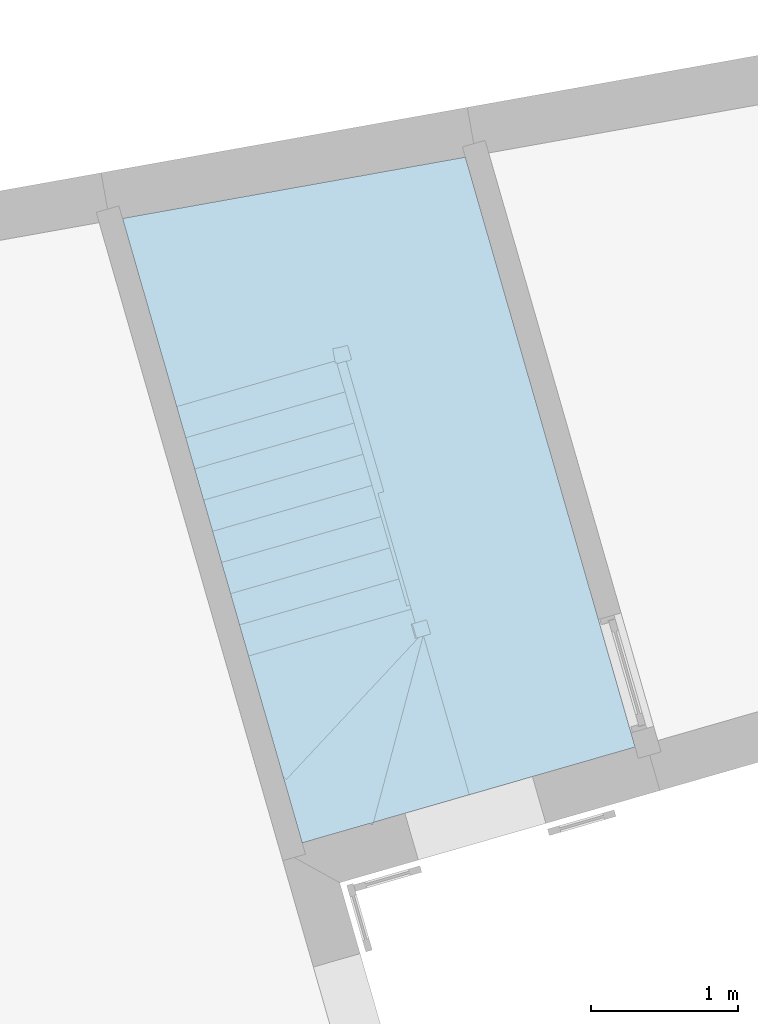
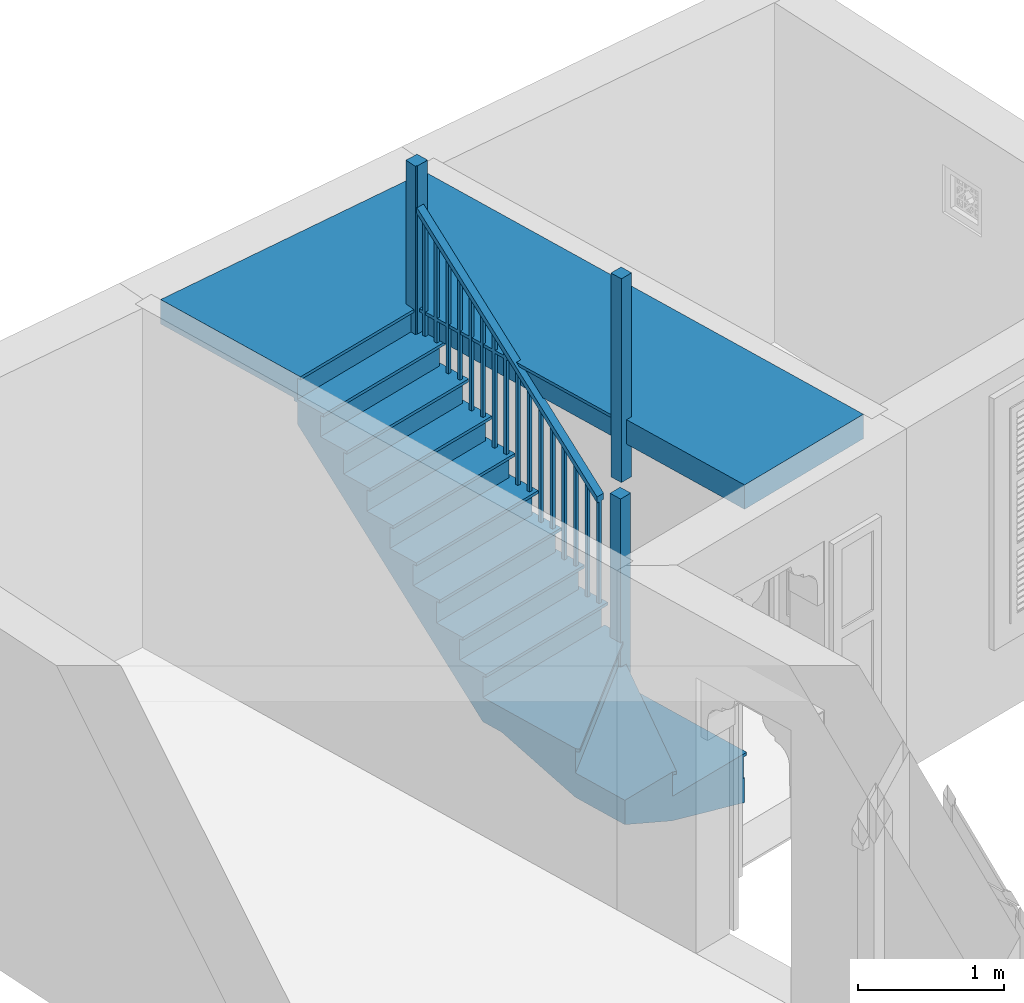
# One storey, part 16 of 16: 1 stair.
"""IFC4 building model written with IfcOpenShell, lengths in metres."""

from ifc_helpers import new_model, si_unit, origin, origin_with_axes, place, context, subcontext, project, spatial, faceted_brep, element, save


model = new_model("IFC4")

# Units and contexts
model_context = context("Model", 3, world=origin_with_axes())
body_context = subcontext(model_context, "Body", "Model", "MODEL_VIEW")
ifc_project = project(units=[si_unit("PLANEANGLEUNIT", "RADIAN"), si_unit("MASSUNIT", "GRAM", prefix="KILO"), si_unit("FORCEUNIT", "NEWTON", prefix="KILO"), si_unit("LENGTHUNIT", "METRE"), si_unit("AREAUNIT", "SQUARE_METRE"), si_unit("VOLUMEUNIT", "CUBIC_METRE")], contexts=[model_context, model_context])

# Site, building, storey
site_placement = place(None, origin_with_axes())
site = spatial("IfcSite", under=ifc_project, at=site_placement, Name="Site plot-9", CompositionType="ELEMENT")
building_placement = place(None, origin_with_axes())
building = spatial("IfcBuilding", under=site, at=building_placement, Name="Building plot-9", CompositionType="ELEMENT")
storey_placement = place(None, origin_with_axes())
storey = spatial("IfcBuildingStorey", under=building, at=storey_placement, Name="plot-9 0", CompositionType="ELEMENT", Elevation=0.0)

# Stair
stair_placement = place(None, origin())
element("IfcStair", 1, at=stair_placement, inside=storey, Name="Stair", PredefinedType="NOTDEFINED", context=body_context, shape_type="Brep", body=[
    faceted_brep([(-17.901008, 5.232909, 2.85), (-16.776629, 5.556441, 2.85), (-17.312239, 7.417856, 2.85), (-18.436617, 7.094324, 2.85), (-18.436617, 7.094324, 2.646429), (-17.312239, 7.417856, 2.646429), (-16.776629, 5.556441, 2.646429), (-17.901008, 5.232909, 2.646429)], [[[0, 1, 2, 3]], [[4, 5, 6, 7]], [[7, 6, 1, 0]], [[6, 5, 2, 1]], [[5, 4, 3, 2]], [[4, 7, 0, 3]]]),
    faceted_brep([(-18.436617, 7.094324, 2.825), (-18.465447, 7.086029, 2.825), (-18.436617, 7.094324, 2.85), (-17.929838, 5.224613, 2.825), (-17.901008, 5.232909, 2.825), (-17.901008, 5.232909, 2.85), (-18.465447, 7.086029, 2.85), (-17.929838, 5.224613, 2.85)], [[[0, 1, 2]], [[3, 4, 5]], [[1, 6, 2]], [[7, 3, 5]], [[2, 6, 7, 5]], [[0, 2, 5, 4]], [[1, 0, 4, 3]], [[6, 1, 3, 7]]]),
    faceted_brep([(-18.498494, 7.128549, 4.05), (-18.470841, 7.032448, 4.05), (-18.374741, 7.0601, 4.05), (-18.402393, 7.156201, 4.05), (-18.402393, 7.156201, 2.85), (-18.374741, 7.0601, 2.85), (-18.470841, 7.032448, 2.85), (-18.498494, 7.128549, 2.85)], [[[0, 1, 2, 3]], [[4, 5, 6, 7]], [[7, 6, 1, 0]], [[6, 5, 2, 1]], [[5, 4, 3, 2]], [[4, 7, 0, 3]]]),
    faceted_brep([(-18.436617, 7.094324, 2.85), (-17.312239, 7.417856, 2.85), (-17.603972, 8.431725, 2.85), (-18.642514, 8.246065, 2.85), (-18.642514, 8.246065, 2.646429), (-17.603972, 8.431725, 2.646429), (-17.312239, 7.417856, 2.646429), (-18.436617, 7.094324, 2.646429)], [[[0, 1, 2, 3]], [[4, 5, 6, 7]], [[7, 6, 1, 0]], [[6, 5, 2, 1]], [[5, 4, 3, 2]], [[4, 7, 0, 3]]]),
    faceted_brep([(-18.672046, 8.240786, 2.825), (-18.672046, 8.240786, 2.85), (-18.642514, 8.246065, 2.825), (-18.466149, 7.089045, 2.85), (-18.466149, 7.089045, 2.825), (-18.436617, 7.094324, 2.825), (-18.642514, 8.246065, 2.85), (-18.436617, 7.094324, 2.85)], [[[0, 1, 2]], [[3, 4, 5]], [[2, 1, 6]], [[3, 5, 7]], [[6, 1, 3, 7]], [[2, 6, 7, 5]], [[0, 2, 5, 4]], [[1, 0, 4, 3]]]),
    faceted_brep([(-18.498494, 7.128549, 2.85), (-18.470841, 7.032448, 2.85), (-18.374741, 7.0601, 2.85), (-18.402393, 7.156201, 2.85), (-18.402393, 7.156201, 2.35), (-18.374741, 7.0601, 2.35), (-18.470841, 7.032448, 2.35), (-18.498494, 7.128549, 2.35)], [[[0, 1, 2, 3]], [[4, 5, 6, 7]], [[7, 6, 1, 0]], [[6, 5, 2, 1]], [[5, 4, 3, 2]], [[4, 7, 0, 3]]]),
    faceted_brep([(-18.436617, 7.094324, 2.85), (-18.642514, 8.246065, 2.85), (-18.651067, 8.244536, 2.85), (-18.44517, 7.092796, 2.85), (-18.44517, 7.092796, 2.646429), (-18.651067, 8.244536, 2.646429), (-18.642514, 8.246065, 2.646429), (-18.436617, 7.094324, 2.646429)], [[[0, 1, 2, 3]], [[4, 5, 6, 7]], [[7, 6, 1, 0]], [[6, 5, 2, 1]], [[5, 4, 3, 2]], [[4, 7, 0, 3]]]),
    faceted_brep([(-18.44517, 7.092796, 2.825), (-18.43989, 7.063264, 2.825), (-18.44517, 7.092796, 2.85), (-18.431338, 7.064793, 2.825), (-18.436617, 7.094324, 2.825), (-18.436617, 7.094324, 2.85), (-18.43989, 7.063264, 2.85), (-18.431338, 7.064793, 2.85)], [[[0, 1, 2]], [[3, 4, 5]], [[1, 6, 2]], [[7, 3, 5]], [[2, 6, 7, 5]], [[0, 2, 5, 4]], [[1, 0, 4, 3]], [[6, 1, 3, 7]]]),
    faceted_brep([(-18.48559, 7.034777, 4.05), (-18.387151, 7.052375, 4.05), (-18.404749, 7.150814, 4.05), (-18.503188, 7.133216, 4.05), (-18.503188, 7.133216, 2.85), (-18.404749, 7.150814, 2.85), (-18.387151, 7.052375, 2.85), (-18.48559, 7.034777, 2.85)], [[[0, 1, 2, 3]], [[4, 5, 6, 7]], [[7, 6, 1, 0]], [[6, 5, 2, 1]], [[5, 4, 3, 2]], [[4, 7, 0, 3]]]),
    faceted_brep([(-18.44517, 7.092796, 2.85), (-18.651067, 8.244536, 2.85), (-19.928344, 8.016197, 2.85), (-19.569548, 6.769264, 2.85), (-19.569548, 6.769264, 2.646429), (-19.928344, 8.016197, 2.646429), (-18.651067, 8.244536, 2.646429), (-18.44517, 7.092796, 2.646429)], [[[0, 1, 2, 3]], [[4, 5, 6, 7]], [[7, 6, 1, 0]], [[6, 5, 2, 1]], [[5, 4, 3, 2]], [[4, 7, 0, 3]]]),
    faceted_brep([(-19.569548, 6.769264, 2.825), (-19.561253, 6.740433, 2.825), (-19.569548, 6.769264, 2.85), (-18.436874, 7.063965, 2.825), (-18.44517, 7.092796, 2.825), (-18.44517, 7.092796, 2.85), (-19.561253, 6.740433, 2.85), (-18.436874, 7.063965, 2.85)], [[[0, 1, 2]], [[3, 4, 5]], [[1, 6, 2]], [[7, 3, 5]], [[2, 6, 7, 5]], [[0, 2, 5, 4]], [[1, 0, 4, 3]], [[6, 1, 3, 7]]]),
    faceted_brep([(-18.48559, 7.034777, 2.85), (-18.387151, 7.052375, 2.85), (-18.404749, 7.150814, 2.85), (-18.503188, 7.133216, 2.85), (-18.503188, 7.133216, 2.35), (-18.404749, 7.150814, 2.35), (-18.387151, 7.052375, 2.35), (-18.48559, 7.034777, 2.35)], [[[0, 1, 2, 3]], [[4, 5, 6, 7]], [[7, 6, 1, 0]], [[6, 5, 2, 1]], [[5, 4, 3, 2]], [[4, 7, 0, 3]]]),
    faceted_brep([(-18.44517, 7.092796, 2.646429), (-19.569548, 6.769264, 2.646429), (-19.508713, 6.557842, 2.646429), (-18.384335, 6.881374, 2.646429), (-18.384335, 6.881374, 2.239286), (-19.508713, 6.557842, 2.239286), (-19.569548, 6.769264, 2.442857), (-18.44517, 7.092796, 2.442857)], [[[0, 1, 2, 3]], [[4, 5, 6, 7]], [[7, 6, 1, 0]], [[1, 6, 5, 2]], [[5, 4, 3, 2]], [[3, 4, 7, 0]]]),
    faceted_brep([(-19.508713, 6.557842, 2.621429), (-19.500417, 6.529012, 2.621429), (-19.508713, 6.557842, 2.646429), (-19.577844, 6.798094, 2.621429), (-19.569548, 6.769264, 2.621429), (-19.569548, 6.769264, 2.646429), (-19.500417, 6.529012, 2.646429), (-19.577844, 6.798094, 2.646429), (-18.347209, 6.860839, 2.646429), (-18.384335, 6.881374, 2.646429), (-18.384335, 6.881374, 2.621429), (-18.347209, 6.860839, 2.621429), (-18.424635, 7.129921, 2.646429), (-18.44517, 7.092796, 2.646429), (-18.44517, 7.092796, 2.621429), (-18.424635, 7.129921, 2.621429)], [[[0, 1, 2]], [[3, 4, 5]], [[1, 6, 2]], [[7, 3, 5]], [[2, 6, 8, 9]], [[0, 2, 9, 10]], [[1, 0, 10, 11]], [[6, 1, 11, 8]], [[9, 8, 12, 13]], [[10, 9, 13, 14]], [[11, 10, 14, 15]], [[8, 11, 15, 12]], [[13, 12, 7, 5]], [[14, 13, 5, 4]], [[15, 14, 4, 3]], [[12, 15, 3, 7]]]),
    faceted_brep([(-18.384335, 6.881374, 3.546429), (-18.391248, 6.905399, 3.546429), (-18.415273, 6.898486, 3.546429), (-18.40836, 6.874461, 3.546429), (-18.40836, 6.874461, 2.646429), (-18.415273, 6.898486, 2.646429), (-18.391248, 6.905399, 2.646429), (-18.384335, 6.881374, 2.646429)], [[[0, 1, 2, 3]], [[4, 5, 6, 7]], [[7, 6, 1, 0]], [[6, 5, 2, 1]], [[5, 4, 3, 2]], [[4, 7, 0, 3]]]),
    faceted_brep([(-18.414752, 6.987085, 3.648214), (-18.421665, 7.01111, 3.648214), (-18.44569, 7.004197, 3.648214), (-18.438777, 6.980172, 3.648214), (-18.438777, 6.980172, 2.646429), (-18.44569, 7.004197, 2.646429), (-18.421665, 7.01111, 2.646429), (-18.414752, 6.987085, 2.646429)], [[[0, 1, 2, 3]], [[4, 5, 6, 7]], [[7, 6, 1, 0]], [[6, 5, 2, 1]], [[5, 4, 3, 2]], [[4, 7, 0, 3]]]),
    faceted_brep([(-18.42758, 6.86893, 3.496429), (-18.365114, 6.886904, 3.496429), (-18.365114, 6.886904, 3.546429), (-18.42758, 6.86893, 3.546429), (-18.42595, 7.098326, 3.7), (-18.488415, 7.080352, 3.7), (-18.488415, 7.080352, 3.75), (-18.42595, 7.098326, 3.75)], [[[0, 1, 2, 3]], [[4, 5, 6, 7]], [[0, 5, 4, 1]], [[3, 2, 7, 6]], [[0, 3, 6, 5]], [[2, 1, 4, 7]]]),
    faceted_brep([(-18.384335, 6.881374, 2.442857), (-19.508713, 6.557842, 2.442857), (-19.447878, 6.34642, 2.442857), (-18.3235, 6.669952, 2.442857), (-18.3235, 6.669952, 2.035714), (-19.447878, 6.34642, 2.035714), (-19.508713, 6.557842, 2.239286), (-18.384335, 6.881374, 2.239286)], [[[0, 1, 2, 3]], [[4, 5, 6, 7]], [[7, 6, 1, 0]], [[1, 6, 5, 2]], [[5, 4, 3, 2]], [[3, 4, 7, 0]]]),
    faceted_brep([(-19.447878, 6.34642, 2.417857), (-19.439582, 6.31759, 2.417857), (-19.447878, 6.34642, 2.442857), (-19.517009, 6.586672, 2.417857), (-19.508713, 6.557842, 2.417857), (-19.508713, 6.557842, 2.442857), (-19.439582, 6.31759, 2.442857), (-19.517009, 6.586672, 2.442857), (-18.286374, 6.649418, 2.442857), (-18.3235, 6.669952, 2.442857), (-18.3235, 6.669952, 2.417857), (-18.286374, 6.649418, 2.417857), (-18.3638, 6.9185, 2.442857), (-18.384335, 6.881374, 2.442857), (-18.384335, 6.881374, 2.417857), (-18.3638, 6.9185, 2.417857)], [[[0, 1, 2]], [[3, 4, 5]], [[1, 6, 2]], [[7, 3, 5]], [[2, 6, 8, 9]], [[0, 2, 9, 10]], [[1, 0, 10, 11]], [[6, 1, 11, 8]], [[9, 8, 12, 13]], [[10, 9, 13, 14]], [[11, 10, 14, 15]], [[8, 11, 15, 12]], [[13, 12, 7, 5]], [[14, 13, 5, 4]], [[15, 14, 4, 3]], [[12, 15, 3, 7]]]),
    faceted_brep([(-18.3235, 6.669952, 3.342857), (-18.330413, 6.693978, 3.342857), (-18.354438, 6.687064, 3.342857), (-18.347525, 6.663039, 3.342857), (-18.347525, 6.663039, 2.442857), (-18.354438, 6.687064, 2.442857), (-18.330413, 6.693978, 2.442857), (-18.3235, 6.669952, 2.442857)], [[[0, 1, 2, 3]], [[4, 5, 6, 7]], [[7, 6, 1, 0]], [[6, 5, 2, 1]], [[5, 4, 3, 2]], [[4, 7, 0, 3]]]),
    faceted_brep([(-18.353917, 6.775663, 3.444643), (-18.36083, 6.799688, 3.444643), (-18.384855, 6.792775, 3.444643), (-18.377942, 6.76875, 3.444643), (-18.377942, 6.76875, 2.442857), (-18.384855, 6.792775, 2.442857), (-18.36083, 6.799688, 2.442857), (-18.353917, 6.775663, 2.442857)], [[[0, 1, 2, 3]], [[4, 5, 6, 7]], [[7, 6, 1, 0]], [[6, 5, 2, 1]], [[5, 4, 3, 2]], [[4, 7, 0, 3]]]),
    faceted_brep([(-18.366745, 6.657509, 3.292857), (-18.304279, 6.675483, 3.292857), (-18.304279, 6.675483, 3.342857), (-18.366745, 6.657509, 3.342857), (-18.365114, 6.886904, 3.496429), (-18.42758, 6.86893, 3.496429), (-18.42758, 6.86893, 3.546429), (-18.365114, 6.886904, 3.546429)], [[[0, 1, 2, 3]], [[4, 5, 6, 7]], [[0, 5, 4, 1]], [[3, 2, 7, 6]], [[0, 3, 6, 5]], [[2, 1, 4, 7]]]),
    faceted_brep([(-18.3235, 6.669952, 2.239286), (-19.447878, 6.34642, 2.239286), (-19.387043, 6.134999, 2.239286), (-18.262664, 6.458531, 2.239286), (-18.262664, 6.458531, 1.832143), (-19.387043, 6.134999, 1.832143), (-19.447878, 6.34642, 2.035714), (-18.3235, 6.669952, 2.035714)], [[[0, 1, 2, 3]], [[4, 5, 6, 7]], [[7, 6, 1, 0]], [[1, 6, 5, 2]], [[5, 4, 3, 2]], [[3, 4, 7, 0]]]),
    faceted_brep([(-19.387043, 6.134999, 2.214286), (-19.378747, 6.106169, 2.214286), (-19.387043, 6.134999, 2.239286), (-19.456174, 6.375251, 2.214286), (-19.447878, 6.34642, 2.214286), (-19.447878, 6.34642, 2.239286), (-19.378747, 6.106169, 2.239286), (-19.456174, 6.375251, 2.239286), (-18.225539, 6.437996, 2.239286), (-18.262664, 6.458531, 2.239286), (-18.262664, 6.458531, 2.214286), (-18.225539, 6.437996, 2.214286), (-18.302965, 6.707078, 2.239286), (-18.3235, 6.669952, 2.239286), (-18.3235, 6.669952, 2.214286), (-18.302965, 6.707078, 2.214286)], [[[0, 1, 2]], [[3, 4, 5]], [[1, 6, 2]], [[7, 3, 5]], [[2, 6, 8, 9]], [[0, 2, 9, 10]], [[1, 0, 10, 11]], [[6, 1, 11, 8]], [[9, 8, 12, 13]], [[10, 9, 13, 14]], [[11, 10, 14, 15]], [[8, 11, 15, 12]], [[13, 12, 7, 5]], [[14, 13, 5, 4]], [[15, 14, 4, 3]], [[12, 15, 3, 7]]]),
    faceted_brep([(-18.262664, 6.458531, 3.139286), (-18.269578, 6.482556, 3.139286), (-18.293603, 6.475643, 3.139286), (-18.28669, 6.451618, 3.139286), (-18.28669, 6.451618, 2.239286), (-18.293603, 6.475643, 2.239286), (-18.269578, 6.482556, 2.239286), (-18.262664, 6.458531, 2.239286)], [[[0, 1, 2, 3]], [[4, 5, 6, 7]], [[7, 6, 1, 0]], [[6, 5, 2, 1]], [[5, 4, 3, 2]], [[4, 7, 0, 3]]]),
    faceted_brep([(-18.293082, 6.564242, 3.241071), (-18.299995, 6.588267, 3.241071), (-18.32402, 6.581354, 3.241071), (-18.317107, 6.557328, 3.241071), (-18.317107, 6.557328, 2.239286), (-18.32402, 6.581354, 2.239286), (-18.299995, 6.588267, 2.239286), (-18.293082, 6.564242, 2.239286)], [[[0, 1, 2, 3]], [[4, 5, 6, 7]], [[7, 6, 1, 0]], [[6, 5, 2, 1]], [[5, 4, 3, 2]], [[4, 7, 0, 3]]]),
    faceted_brep([(-18.30591, 6.446087, 3.089286), (-18.243444, 6.464061, 3.089286), (-18.243444, 6.464061, 3.139286), (-18.30591, 6.446087, 3.139286), (-18.304279, 6.675483, 3.292857), (-18.366745, 6.657509, 3.292857), (-18.366745, 6.657509, 3.342857), (-18.304279, 6.675483, 3.342857)], [[[0, 1, 2, 3]], [[4, 5, 6, 7]], [[0, 5, 4, 1]], [[3, 2, 7, 6]], [[0, 3, 6, 5]], [[2, 1, 4, 7]]]),
    faceted_brep([(-18.262664, 6.458531, 2.035714), (-19.387043, 6.134999, 2.035714), (-19.326208, 5.923577, 2.035714), (-18.201829, 6.247109, 2.035714), (-18.201829, 6.247109, 1.628571), (-19.326208, 5.923577, 1.628571), (-19.387043, 6.134999, 1.832143), (-18.262664, 6.458531, 1.832143)], [[[0, 1, 2, 3]], [[4, 5, 6, 7]], [[7, 6, 1, 0]], [[1, 6, 5, 2]], [[5, 4, 3, 2]], [[3, 4, 7, 0]]]),
    faceted_brep([(-19.317912, 5.894747, 2.010714), (-19.317912, 5.894747, 2.035714), (-19.326208, 5.923577, 2.010714), (-19.395339, 6.163829, 2.035714), (-19.395339, 6.163829, 2.010714), (-19.387043, 6.134999, 2.010714), (-19.326208, 5.923577, 2.035714), (-19.387043, 6.134999, 2.035714), (-18.164703, 6.226575, 2.035714), (-18.201829, 6.247109, 2.035714), (-18.201829, 6.247109, 2.010714), (-18.164703, 6.226575, 2.010714), (-18.24213, 6.495657, 2.035714), (-18.262664, 6.458531, 2.035714), (-18.262664, 6.458531, 2.010714), (-18.24213, 6.495657, 2.010714)], [[[0, 1, 2]], [[3, 4, 5]], [[2, 1, 6]], [[3, 5, 7]], [[6, 1, 8, 9]], [[2, 6, 9, 10]], [[0, 2, 10, 11]], [[1, 0, 11, 8]], [[9, 8, 12, 13]], [[10, 9, 13, 14]], [[11, 10, 14, 15]], [[8, 11, 15, 12]], [[13, 12, 3, 7]], [[14, 13, 7, 5]], [[15, 14, 5, 4]], [[12, 15, 4, 3]]]),
    faceted_brep([(-18.201829, 6.247109, 2.935714), (-18.208742, 6.271134, 2.935714), (-18.232768, 6.264221, 2.935714), (-18.225855, 6.240196, 2.935714), (-18.225855, 6.240196, 2.035714), (-18.232768, 6.264221, 2.035714), (-18.208742, 6.271134, 2.035714), (-18.201829, 6.247109, 2.035714)], [[[0, 1, 2, 3]], [[4, 5, 6, 7]], [[7, 6, 1, 0]], [[6, 5, 2, 1]], [[5, 4, 3, 2]], [[4, 7, 0, 3]]]),
    faceted_brep([(-18.232247, 6.35282, 3.0375), (-18.23916, 6.376845, 3.0375), (-18.263185, 6.369932, 3.0375), (-18.256272, 6.345907, 3.0375), (-18.256272, 6.345907, 2.035714), (-18.263185, 6.369932, 2.035714), (-18.23916, 6.376845, 2.035714), (-18.232247, 6.35282, 2.035714)], [[[0, 1, 2, 3]], [[4, 5, 6, 7]], [[7, 6, 1, 0]], [[6, 5, 2, 1]], [[5, 4, 3, 2]], [[4, 7, 0, 3]]]),
    faceted_brep([(-18.245075, 6.234666, 2.885714), (-18.182609, 6.25264, 2.885714), (-18.182609, 6.25264, 2.935714), (-18.245075, 6.234666, 2.935714), (-18.243444, 6.464061, 3.089286), (-18.30591, 6.446087, 3.089286), (-18.30591, 6.446087, 3.139286), (-18.243444, 6.464061, 3.139286)], [[[0, 1, 2, 3]], [[4, 5, 6, 7]], [[0, 5, 4, 1]], [[3, 2, 7, 6]], [[0, 3, 6, 5]], [[2, 1, 4, 7]]]),
    faceted_brep([(-18.201829, 6.247109, 1.832143), (-19.326208, 5.923577, 1.832143), (-19.265373, 5.712156, 1.832143), (-18.140994, 6.035688, 1.832143), (-18.140994, 6.035688, 1.425), (-19.265373, 5.712156, 1.425), (-19.326208, 5.923577, 1.628571), (-18.201829, 6.247109, 1.628571)], [[[0, 1, 2, 3]], [[4, 5, 6, 7]], [[7, 6, 1, 0]], [[1, 6, 5, 2]], [[5, 4, 3, 2]], [[3, 4, 7, 0]]]),
    faceted_brep([(-19.257077, 5.683325, 1.807143), (-19.257077, 5.683325, 1.832143), (-19.265373, 5.712156, 1.807143), (-19.334504, 5.952407, 1.832143), (-19.334504, 5.952407, 1.807143), (-19.326208, 5.923577, 1.807143), (-19.265373, 5.712156, 1.832143), (-19.326208, 5.923577, 1.832143), (-18.103868, 6.015153, 1.832143), (-18.140994, 6.035688, 1.832143), (-18.140994, 6.035688, 1.807143), (-18.103868, 6.015153, 1.807143), (-18.181295, 6.284235, 1.832143), (-18.201829, 6.247109, 1.832143), (-18.201829, 6.247109, 1.807143), (-18.181295, 6.284235, 1.807143)], [[[0, 1, 2]], [[3, 4, 5]], [[2, 1, 6]], [[3, 5, 7]], [[6, 1, 8, 9]], [[2, 6, 9, 10]], [[0, 2, 10, 11]], [[1, 0, 11, 8]], [[9, 8, 12, 13]], [[10, 9, 13, 14]], [[11, 10, 14, 15]], [[8, 11, 15, 12]], [[13, 12, 3, 7]], [[14, 13, 7, 5]], [[15, 14, 5, 4]], [[12, 15, 4, 3]]]),
    faceted_brep([(-18.140994, 6.035688, 2.732143), (-18.147907, 6.059713, 2.732143), (-18.171933, 6.0528, 2.732143), (-18.16502, 6.028774, 2.732143), (-18.16502, 6.028774, 1.832143), (-18.171933, 6.0528, 1.832143), (-18.147907, 6.059713, 1.832143), (-18.140994, 6.035688, 1.832143)], [[[0, 1, 2, 3]], [[4, 5, 6, 7]], [[7, 6, 1, 0]], [[6, 5, 2, 1]], [[5, 4, 3, 2]], [[4, 7, 0, 3]]]),
    faceted_brep([(-18.171412, 6.141398, 2.833929), (-18.178325, 6.165424, 2.833929), (-18.20235, 6.15851, 2.833929), (-18.195437, 6.134485, 2.833929), (-18.195437, 6.134485, 1.832143), (-18.20235, 6.15851, 1.832143), (-18.178325, 6.165424, 1.832143), (-18.171412, 6.141398, 1.832143)], [[[0, 1, 2, 3]], [[4, 5, 6, 7]], [[7, 6, 1, 0]], [[6, 5, 2, 1]], [[5, 4, 3, 2]], [[4, 7, 0, 3]]]),
    faceted_brep([(-18.18424, 6.023244, 2.682143), (-18.121774, 6.041218, 2.682143), (-18.121774, 6.041218, 2.732143), (-18.18424, 6.023244, 2.732143), (-18.182609, 6.25264, 2.885714), (-18.245075, 6.234666, 2.885714), (-18.245075, 6.234666, 2.935714), (-18.182609, 6.25264, 2.935714)], [[[0, 1, 2, 3]], [[4, 5, 6, 7]], [[0, 5, 4, 1]], [[3, 2, 7, 6]], [[0, 3, 6, 5]], [[2, 1, 4, 7]]]),
    faceted_brep([(-18.140994, 6.035688, 1.628571), (-19.265373, 5.712156, 1.628571), (-19.204538, 5.500734, 1.628571), (-18.080159, 5.824266, 1.628571), (-18.080159, 5.824266, 1.221429), (-19.204538, 5.500734, 1.221429), (-19.265373, 5.712156, 1.425), (-18.140994, 6.035688, 1.425)], [[[0, 1, 2, 3]], [[4, 5, 6, 7]], [[7, 6, 1, 0]], [[1, 6, 5, 2]], [[5, 4, 3, 2]], [[3, 4, 7, 0]]]),
    faceted_brep([(-19.196242, 5.471904, 1.603571), (-19.196242, 5.471904, 1.628571), (-19.204538, 5.500734, 1.603571), (-19.273669, 5.740986, 1.628571), (-19.273669, 5.740986, 1.603571), (-19.265373, 5.712156, 1.603571), (-19.204538, 5.500734, 1.628571), (-19.265373, 5.712156, 1.628571), (-18.043033, 5.803731, 1.628571), (-18.080159, 5.824266, 1.628571), (-18.080159, 5.824266, 1.603571), (-18.043033, 5.803731, 1.603571), (-18.12046, 6.072813, 1.628571), (-18.140994, 6.035688, 1.628571), (-18.140994, 6.035688, 1.603571), (-18.12046, 6.072813, 1.603571)], [[[0, 1, 2]], [[3, 4, 5]], [[2, 1, 6]], [[3, 5, 7]], [[6, 1, 8, 9]], [[2, 6, 9, 10]], [[0, 2, 10, 11]], [[1, 0, 11, 8]], [[9, 8, 12, 13]], [[10, 9, 13, 14]], [[11, 10, 14, 15]], [[8, 11, 15, 12]], [[13, 12, 3, 7]], [[14, 13, 7, 5]], [[15, 14, 5, 4]], [[12, 15, 4, 3]]]),
    faceted_brep([(-18.080159, 5.824266, 2.528571), (-18.087072, 5.848291, 2.528571), (-18.111098, 5.841378, 2.528571), (-18.104184, 5.817353, 2.528571), (-18.104184, 5.817353, 1.628571), (-18.111098, 5.841378, 1.628571), (-18.087072, 5.848291, 1.628571), (-18.080159, 5.824266, 1.628571)], [[[0, 1, 2, 3]], [[4, 5, 6, 7]], [[7, 6, 1, 0]], [[6, 5, 2, 1]], [[5, 4, 3, 2]], [[4, 7, 0, 3]]]),
    faceted_brep([(-18.110577, 5.929977, 2.630357), (-18.11749, 5.954002, 2.630357), (-18.141515, 5.947089, 2.630357), (-18.134602, 5.923064, 2.630357), (-18.134602, 5.923064, 1.628571), (-18.141515, 5.947089, 1.628571), (-18.11749, 5.954002, 1.628571), (-18.110577, 5.929977, 1.628571)], [[[0, 1, 2, 3]], [[4, 5, 6, 7]], [[7, 6, 1, 0]], [[6, 5, 2, 1]], [[5, 4, 3, 2]], [[4, 7, 0, 3]]]),
    faceted_brep([(-18.123405, 5.811822, 2.478571), (-18.060939, 5.829796, 2.478571), (-18.060939, 5.829796, 2.528571), (-18.123405, 5.811822, 2.528571), (-18.121774, 6.041218, 2.682143), (-18.18424, 6.023244, 2.682143), (-18.18424, 6.023244, 2.732143), (-18.121774, 6.041218, 2.732143)], [[[0, 1, 2, 3]], [[4, 5, 6, 7]], [[0, 5, 4, 1]], [[3, 2, 7, 6]], [[0, 3, 6, 5]], [[2, 1, 4, 7]]]),
    faceted_brep([(-18.080159, 5.824266, 1.425), (-19.204538, 5.500734, 1.425), (-19.143703, 5.289312, 1.425), (-18.019324, 5.612844, 1.425), (-18.019324, 5.612844, 1.017857), (-19.143703, 5.289312, 1.017857), (-19.204538, 5.500734, 1.221429), (-18.080159, 5.824266, 1.221429)], [[[0, 1, 2, 3]], [[4, 5, 6, 7]], [[7, 6, 1, 0]], [[1, 6, 5, 2]], [[5, 4, 3, 2]], [[3, 4, 7, 0]]]),
    faceted_brep([(-19.135407, 5.260482, 1.4), (-19.135407, 5.260482, 1.425), (-19.143703, 5.289312, 1.4), (-19.212833, 5.529564, 1.425), (-19.212833, 5.529564, 1.4), (-19.204538, 5.500734, 1.4), (-19.143703, 5.289312, 1.425), (-19.204538, 5.500734, 1.425), (-17.982198, 5.59231, 1.425), (-18.019324, 5.612844, 1.425), (-18.019324, 5.612844, 1.4), (-17.982198, 5.59231, 1.4), (-18.059625, 5.861392, 1.425), (-18.080159, 5.824266, 1.425), (-18.080159, 5.824266, 1.4), (-18.059625, 5.861392, 1.4)], [[[0, 1, 2]], [[3, 4, 5]], [[2, 1, 6]], [[3, 5, 7]], [[6, 1, 8, 9]], [[2, 6, 9, 10]], [[0, 2, 10, 11]], [[1, 0, 11, 8]], [[9, 8, 12, 13]], [[10, 9, 13, 14]], [[11, 10, 14, 15]], [[8, 11, 15, 12]], [[13, 12, 3, 7]], [[14, 13, 7, 5]], [[15, 14, 5, 4]], [[12, 15, 4, 3]]]),
    faceted_brep([(-18.019324, 5.612844, 2.325), (-18.026237, 5.636869, 2.325), (-18.050262, 5.629956, 2.325), (-18.043349, 5.605931, 2.325), (-18.043349, 5.605931, 1.425), (-18.050262, 5.629956, 1.425), (-18.026237, 5.636869, 1.425), (-18.019324, 5.612844, 1.425)], [[[0, 1, 2, 3]], [[4, 5, 6, 7]], [[7, 6, 1, 0]], [[6, 5, 2, 1]], [[5, 4, 3, 2]], [[4, 7, 0, 3]]]),
    faceted_brep([(-18.049742, 5.718555, 2.426786), (-18.056655, 5.74258, 2.426786), (-18.08068, 5.735667, 2.426786), (-18.073767, 5.711642, 2.426786), (-18.073767, 5.711642, 1.425), (-18.08068, 5.735667, 1.425), (-18.056655, 5.74258, 1.425), (-18.049742, 5.718555, 1.425)], [[[0, 1, 2, 3]], [[4, 5, 6, 7]], [[7, 6, 1, 0]], [[6, 5, 2, 1]], [[5, 4, 3, 2]], [[4, 7, 0, 3]]]),
    faceted_brep([(-18.06257, 5.600401, 2.275), (-18.000104, 5.618375, 2.275), (-18.000104, 5.618375, 2.325), (-18.06257, 5.600401, 2.325), (-18.060939, 5.829796, 2.478571), (-18.123405, 5.811822, 2.478571), (-18.123405, 5.811822, 2.528571), (-18.060939, 5.829796, 2.528571)], [[[0, 1, 2, 3]], [[4, 5, 6, 7]], [[0, 5, 4, 1]], [[3, 2, 7, 6]], [[0, 3, 6, 5]], [[2, 1, 4, 7]]]),
    faceted_brep([(-18.019324, 5.612844, 1.221429), (-19.143703, 5.289312, 1.221429), (-19.082868, 5.077891, 1.221429), (-17.958489, 5.401423, 1.221429), (-17.958489, 5.401423, 0.814286), (-19.082868, 5.077891, 0.814286), (-19.143703, 5.289312, 1.017857), (-18.019324, 5.612844, 1.017857)], [[[0, 1, 2, 3]], [[4, 5, 6, 7]], [[7, 6, 1, 0]], [[1, 6, 5, 2]], [[5, 4, 3, 2]], [[3, 4, 7, 0]]]),
    faceted_brep([(-19.082868, 5.077891, 1.196429), (-19.074572, 5.049061, 1.196429), (-19.082868, 5.077891, 1.221429), (-19.151998, 5.318143, 1.196429), (-19.143703, 5.289312, 1.196429), (-19.143703, 5.289312, 1.221429), (-19.074572, 5.049061, 1.221429), (-19.151998, 5.318143, 1.221429), (-17.921363, 5.380888, 1.221429), (-17.958489, 5.401423, 1.221429), (-17.958489, 5.401423, 1.196429), (-17.921363, 5.380888, 1.196429), (-17.99879, 5.64997, 1.221429), (-18.019324, 5.612844, 1.221429), (-18.019324, 5.612844, 1.196429), (-17.99879, 5.64997, 1.196429)], [[[0, 1, 2]], [[3, 4, 5]], [[1, 6, 2]], [[7, 3, 5]], [[2, 6, 8, 9]], [[0, 2, 9, 10]], [[1, 0, 10, 11]], [[6, 1, 11, 8]], [[9, 8, 12, 13]], [[10, 9, 13, 14]], [[11, 10, 14, 15]], [[8, 11, 15, 12]], [[13, 12, 7, 5]], [[14, 13, 5, 4]], [[15, 14, 4, 3]], [[12, 15, 3, 7]]]),
    faceted_brep([(-17.958489, 5.401423, 2.121429), (-17.965402, 5.425448, 2.121429), (-17.989427, 5.418535, 2.121429), (-17.982514, 5.39451, 2.121429), (-17.982514, 5.39451, 1.221429), (-17.989427, 5.418535, 1.221429), (-17.965402, 5.425448, 1.221429), (-17.958489, 5.401423, 1.221429)], [[[0, 1, 2, 3]], [[4, 5, 6, 7]], [[7, 6, 1, 0]], [[6, 5, 2, 1]], [[5, 4, 3, 2]], [[4, 7, 0, 3]]]),
    faceted_brep([(-17.988907, 5.507134, 2.223214), (-17.99582, 5.531159, 2.223214), (-18.019845, 5.524246, 2.223214), (-18.012932, 5.50022, 2.223214), (-18.012932, 5.50022, 1.221429), (-18.019845, 5.524246, 1.221429), (-17.99582, 5.531159, 1.221429), (-17.988907, 5.507134, 1.221429)], [[[0, 1, 2, 3]], [[4, 5, 6, 7]], [[7, 6, 1, 0]], [[6, 5, 2, 1]], [[5, 4, 3, 2]], [[4, 7, 0, 3]]]),
    faceted_brep([(-18.001734, 5.388979, 2.071429), (-17.939269, 5.406953, 2.071429), (-17.939269, 5.406953, 2.121429), (-18.001734, 5.388979, 2.121429), (-18.000104, 5.618375, 2.275), (-18.06257, 5.600401, 2.275), (-18.06257, 5.600401, 2.325), (-18.000104, 5.618375, 2.325)], [[[0, 1, 2, 3]], [[4, 5, 6, 7]], [[0, 5, 4, 1]], [[3, 2, 7, 6]], [[0, 3, 6, 5]], [[2, 1, 4, 7]]]),
    faceted_brep([(-17.958489, 5.401423, 1.017857), (-19.082868, 5.077891, 1.017857), (-19.033691, 4.906987, 1.017857), (-17.909313, 5.230519, 1.017857), (-17.909313, 5.230519, 0.814286), (-19.033691, 4.906987, 0.814286), (-19.082868, 5.077891, 0.814286), (-17.958489, 5.401423, 0.814286)], [[[0, 1, 2, 3]], [[4, 5, 6, 7]], [[7, 6, 1, 0]], [[6, 5, 2, 1]], [[5, 4, 3, 2]], [[4, 7, 0, 3]]]),
    faceted_brep([(-17.909313, 5.230519, 0.992857), (-17.880483, 5.238815, 0.992857), (-17.909313, 5.230519, 1.017857), (-17.929659, 5.409718, 0.992857), (-17.958489, 5.401423, 0.992857), (-17.958489, 5.401423, 1.017857), (-17.880483, 5.238815, 1.017857), (-17.929659, 5.409718, 1.017857)], [[[0, 1, 2]], [[3, 4, 5]], [[1, 6, 2]], [[7, 3, 5]], [[2, 6, 7, 5]], [[0, 2, 5, 4]], [[1, 0, 4, 3]], [[6, 1, 3, 7]]]),
    faceted_brep([(-17.847436, 5.196295, 2.217857), (-17.875089, 5.292396, 2.217857), (-17.971189, 5.264743, 2.217857), (-17.943537, 5.168643, 2.217857), (-17.943537, 5.168643, 1.017857), (-17.971189, 5.264743, 1.017857), (-17.875089, 5.292396, 1.017857), (-17.847436, 5.196295, 1.017857)], [[[0, 1, 2, 3]], [[4, 5, 6, 7]], [[7, 6, 1, 0]], [[6, 5, 2, 1]], [[5, 4, 3, 2]], [[4, 7, 0, 3]]]),
    faceted_brep([(-19.033691, 4.906987, 1.017857), (-18.839572, 4.23236, 1.017857), (-17.909313, 5.230519, 1.017857), (-17.909313, 5.230519, 0.610714), (-18.839572, 4.23236, 0.610714), (-19.033691, 4.906987, 0.814286)], [[[0, 1, 2]], [[3, 4, 5]], [[0, 5, 4, 1]], [[4, 3, 2, 1]], [[2, 3, 5, 0]]]),
    faceted_brep([(-18.839572, 4.23236, 0.992857), (-18.817626, 4.211907, 0.992857), (-18.839572, 4.23236, 1.017857), (-17.887366, 5.210066, 0.992857), (-17.909313, 5.230519, 0.992857), (-17.909313, 5.230519, 1.017857), (-18.817626, 4.211907, 1.017857), (-17.887366, 5.210066, 1.017857)], [[[0, 1, 2]], [[3, 4, 5]], [[1, 6, 2]], [[7, 3, 5]], [[2, 6, 7, 5]], [[0, 2, 5, 4]], [[1, 0, 4, 3]], [[6, 1, 3, 7]]]),
    faceted_brep([(-18.839572, 4.23236, 0.814286), (-18.710159, 3.782609, 0.814286), (-18.260408, 3.912022, 0.814286), (-17.909313, 5.230519, 0.814286), (-17.909313, 5.230519, 0.407143), (-18.260408, 3.912022, 0.407143), (-18.710159, 3.782609, 0.610714), (-18.839572, 4.23236, 0.610714)], [[[0, 1, 2, 3]], [[4, 5, 6, 7]], [[7, 6, 1, 0]], [[1, 6, 5, 2]], [[5, 4, 3, 2]], [[3, 4, 7, 0]]]),
    faceted_brep([(-18.231418, 3.904302, 0.789286), (-18.231418, 3.904302, 0.814286), (-18.260408, 3.912022, 0.789286), (-17.880323, 5.2228, 0.814286), (-17.880323, 5.2228, 0.789286), (-17.909313, 5.230519, 0.789286), (-18.260408, 3.912022, 0.814286), (-17.909313, 5.230519, 0.814286)], [[[0, 1, 2]], [[3, 4, 5]], [[2, 1, 6]], [[3, 5, 7]], [[6, 1, 3, 7]], [[2, 6, 7, 5]], [[0, 2, 5, 4]], [[1, 0, 4, 3]]]),
    faceted_brep([(-18.260408, 3.912022, 0.610714), (-17.585781, 4.106141, 0.610714), (-17.909313, 5.230519, 0.610714), (-17.909313, 5.230519, 0.203571), (-17.585781, 4.106141, 0.203571), (-18.260408, 3.912022, 0.407143)], [[[0, 1, 2]], [[3, 4, 5]], [[0, 5, 4, 1]], [[4, 3, 2, 1]], [[2, 3, 5, 0]]]),
    faceted_brep([(-17.585781, 4.106141, 0.585714), (-17.556951, 4.114436, 0.585714), (-17.585781, 4.106141, 0.610714), (-17.880483, 5.238815, 0.585714), (-17.909313, 5.230519, 0.585714), (-17.909313, 5.230519, 0.610714), (-17.556951, 4.114436, 0.610714), (-17.880483, 5.238815, 0.610714)], [[[0, 1, 2]], [[3, 4, 5]], [[1, 6, 2]], [[7, 3, 5]], [[2, 6, 7, 5]], [[0, 2, 5, 4]], [[1, 0, 4, 3]], [[6, 1, 3, 7]]]),
    faceted_brep([(-17.847436, 5.196295, 1.017857), (-17.875089, 5.292396, 1.017857), (-17.971189, 5.264743, 1.017857), (-17.943537, 5.168643, 1.017857), (-17.943537, 5.168643, 0.110714), (-17.971189, 5.264743, 0.110714), (-17.875089, 5.292396, 0.110714), (-17.847436, 5.196295, 0.110714)], [[[0, 1, 2, 3]], [[4, 5, 6, 7]], [[7, 6, 1, 0]], [[6, 5, 2, 1]], [[5, 4, 3, 2]], [[4, 7, 0, 3]]]),
    faceted_brep([(-17.909313, 5.230519, 0.407143), (-17.585781, 4.106141, 0.407143), (-17.577476, 4.10853, 0.407143), (-17.901008, 5.232909, 0.407143), (-17.901008, 5.232909, 0.203571), (-17.577476, 4.10853, 0.203571), (-17.585781, 4.106141, 0.203571), (-17.909313, 5.230519, 0.203571)], [[[0, 1, 2, 3]], [[4, 5, 6, 7]], [[7, 6, 1, 0]], [[6, 5, 2, 1]], [[5, 4, 3, 2]], [[4, 7, 0, 3]]]),
    faceted_brep([(-17.909304, 5.261739, 0.382143), (-17.909304, 5.261739, 0.407143), (-17.901008, 5.232909, 0.382143), (-17.917609, 5.259349, 0.407143), (-17.917609, 5.259349, 0.382143), (-17.909313, 5.230519, 0.382143), (-17.901008, 5.232909, 0.407143), (-17.909313, 5.230519, 0.407143)], [[[0, 1, 2]], [[3, 4, 5]], [[2, 1, 6]], [[3, 5, 7]], [[6, 1, 3, 7]], [[2, 6, 7, 5]], [[0, 2, 5, 4]], [[1, 0, 4, 3]]]),
    faceted_brep([(-17.866784, 5.294785, 4.05), (-17.962884, 5.267133, 4.05), (-17.935232, 5.171032, 4.05), (-17.839131, 5.198685, 4.05), (-17.839131, 5.198685, 2.85), (-17.935232, 5.171032, 2.85), (-17.962884, 5.267133, 2.85), (-17.866784, 5.294785, 2.85)], [[[0, 1, 2, 3]], [[4, 5, 6, 7]], [[7, 6, 1, 0]], [[6, 5, 2, 1]], [[5, 4, 3, 2]], [[4, 7, 0, 3]]]),
    faceted_brep([(-17.901008, 5.232909, 2.85), (-17.577476, 4.10853, 2.85), (-16.453097, 4.432062, 2.85), (-16.776629, 5.556441, 2.85), (-16.776629, 5.556441, 2.646429), (-16.453097, 4.432062, 2.646429), (-17.577476, 4.10853, 2.646429), (-17.901008, 5.232909, 2.646429)], [[[0, 1, 2, 3]], [[4, 5, 6, 7]], [[7, 6, 1, 0]], [[6, 5, 2, 1]], [[5, 4, 3, 2]], [[4, 7, 0, 3]]]),
    faceted_brep([(-16.784925, 5.585271, 2.825), (-16.784925, 5.585271, 2.85), (-16.776629, 5.556441, 2.825), (-17.909304, 5.261739, 2.85), (-17.909304, 5.261739, 2.825), (-17.901008, 5.232909, 2.825), (-16.776629, 5.556441, 2.85), (-17.901008, 5.232909, 2.85)], [[[0, 1, 2]], [[3, 4, 5]], [[2, 1, 6]], [[3, 5, 7]], [[6, 1, 3, 7]], [[2, 6, 7, 5]], [[0, 2, 5, 4]], [[1, 0, 4, 3]]]),
    faceted_brep([(-17.866784, 5.294785, 2.85), (-17.962884, 5.267133, 2.85), (-17.935232, 5.171032, 2.85), (-17.839131, 5.198685, 2.85), (-17.839131, 5.198685, 2.35), (-17.935232, 5.171032, 2.35), (-17.962884, 5.267133, 2.35), (-17.866784, 5.294785, 2.35)], [[[0, 1, 2, 3]], [[4, 5, 6, 7]], [[7, 6, 1, 0]], [[6, 5, 2, 1]], [[5, 4, 3, 2]], [[4, 7, 0, 3]]]),
])

save(model, "model.ifc")
